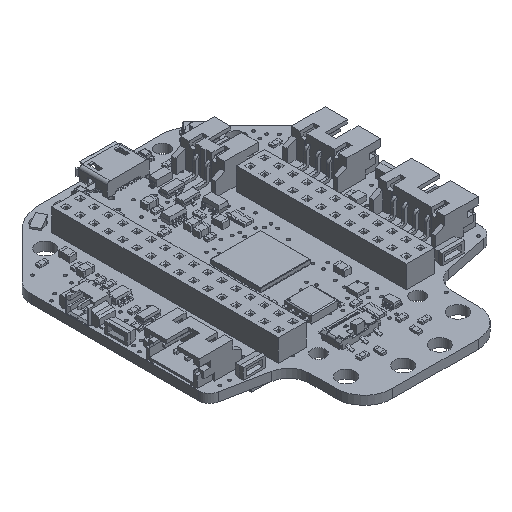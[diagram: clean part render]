
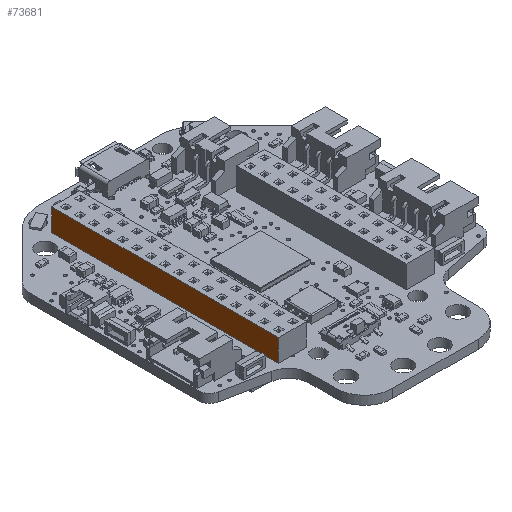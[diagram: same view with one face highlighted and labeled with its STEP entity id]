
A CAD part, isometric view. The second image highlights one B-rep face of the part: STEP entity #73681.
In plain terms, the highlighted planar face has unit normal (-1, 0, 0).
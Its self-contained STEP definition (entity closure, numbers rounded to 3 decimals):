
#4123=PLANE('',#79157);
#7860=FACE_OUTER_BOUND('',#12113,.T.);
#12113=EDGE_LOOP('',(#67588,#67589,#67590,#67591));
#20233=LINE('',#118836,#28960);
#20861=LINE('',#120092,#29588);
#20866=LINE('',#120101,#29593);
#20867=LINE('',#120103,#29594);
#28960=VECTOR('',#96955,10.);
#29588=VECTOR('',#98085,10.);
#29593=VECTOR('',#98094,10.);
#29594=VECTOR('',#98097,10.);
#37038=VERTEX_POINT('',#118834);
#37039=VERTEX_POINT('',#118835);
#37416=VERTEX_POINT('',#120090);
#37418=VERTEX_POINT('',#120099);
#46887=EDGE_CURVE('',#37038,#37039,#20233,.T.);
#47515=EDGE_CURVE('',#37416,#37038,#20861,.T.);
#47520=EDGE_CURVE('',#37418,#37039,#20866,.T.);
#47521=EDGE_CURVE('',#37416,#37418,#20867,.T.);
#67588=ORIENTED_EDGE('',*,*,#47521,.T.);
#67589=ORIENTED_EDGE('',*,*,#47520,.T.);
#67590=ORIENTED_EDGE('',*,*,#46887,.F.);
#67591=ORIENTED_EDGE('',*,*,#47515,.F.);
#73681=ADVANCED_FACE('',(#7860),#4123,.T.);
#79157=AXIS2_PLACEMENT_3D('',#120102,#98095,#98096);
#96955=DIRECTION('',(0.,-1.,0.));
#98085=DIRECTION('',(0.,0.,1.));
#98094=DIRECTION('',(0.,0.,1.));
#98095=DIRECTION('center_axis',(-1.,0.,0.));
#98096=DIRECTION('ref_axis',(0.,-1.,0.));
#98097=DIRECTION('',(0.,-1.,0.));
#118834=CARTESIAN_POINT('',(-2.5,20.3,4.));
#118835=CARTESIAN_POINT('',(-2.5,-20.3,4.));
#118836=CARTESIAN_POINT('',(-2.5,20.3,4.));
#120090=CARTESIAN_POINT('',(-2.5,20.3,0.));
#120092=CARTESIAN_POINT('',(-2.5,20.3,0.));
#120099=CARTESIAN_POINT('',(-2.5,-20.3,0.));
#120101=CARTESIAN_POINT('',(-2.5,-20.3,0.));
#120102=CARTESIAN_POINT('Origin',(-2.5,20.3,0.));
#120103=CARTESIAN_POINT('',(-2.5,20.3,0.));
